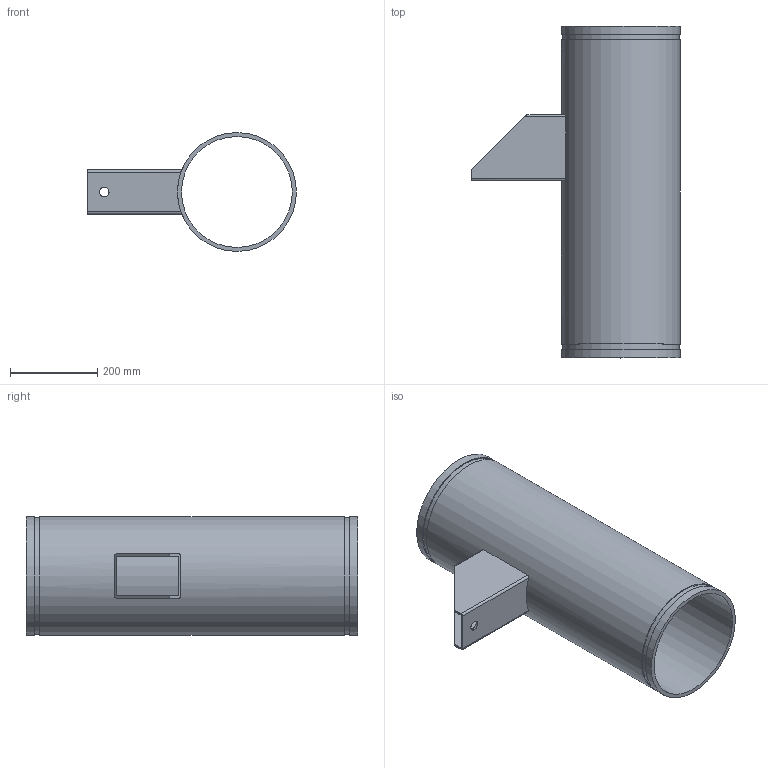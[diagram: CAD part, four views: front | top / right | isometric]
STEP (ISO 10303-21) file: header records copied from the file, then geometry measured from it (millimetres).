
FILE_DESCRIPTION(/* description */ ('VIC FLOOR MOUNTED RISER ANCHOR No A40'),/* implementation_level */ '2;1');
FILE_NAME(/* name */ 'C:\Files for Export\A40 & A40S-STEP-SWX\STEP\Victaulic_IPS_Riser Anchor_No A40 (OGS)\Victaulic_IPS_Riser Anchor_No A40 (OGS)_10 (250).stp',/* time_stamp */ '2024-06-07T07:36:34+02:00',/* author */ ('kkamble'),/* organization */ ('Victaulic'),/* preprocessor_version */ 'ST-DEVELOPER v18.1',/* originating_system */ 'Autodesk Inventor 2020',/* authorisation */ '');
FILE_SCHEMA (('AUTOMOTIVE_DESIGN { 1 0 10303 214 3 1 1 }'));
Length unit declared in the file: inch
Products named in the file (1): A40-10.0
Bounding box: 479.43 x 762 x 273.05 mm (x, y, z)
Volume: 6184936.5 mm3; surface area: 1437474.1 mm2
Topology: 1 solids, 1 shells, 28 faces, 78 edges, 56 vertices
Faces by surface type: plane 16, cylinder 12
Full cylindrical faces by diameter (mm): 22.225 x1, 254.508 x1, 268.275 x2, 273.05 x3
Entity records: 1041 total; most frequent: CARTESIAN_POINT 199, DIRECTION 168, ORIENTED_EDGE 156, EDGE_CURVE 78, AXIS2_PLACEMENT_3D 65, VERTEX_POINT 56, LINE 38, VECTOR 38
